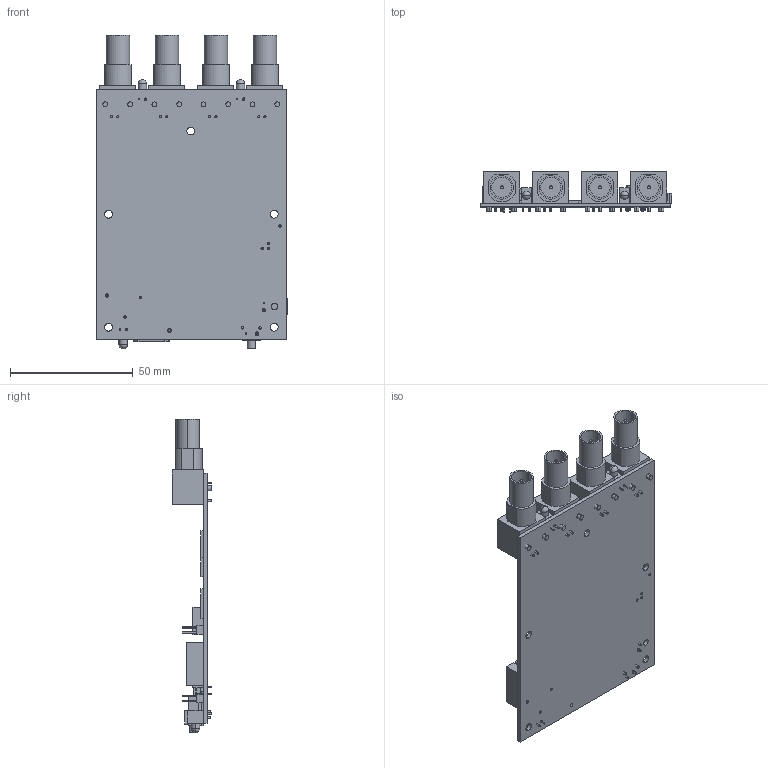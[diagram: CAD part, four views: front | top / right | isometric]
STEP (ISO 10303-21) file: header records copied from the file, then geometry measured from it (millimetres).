
FILE_DESCRIPTION (( 'STEP AP203' ), '1' );
FILE_NAME ('Assy PCB HD-3000 V2 230130.STEP', '2023-01-30T21:15:36', ( '' ), ( '' ), 'SwSTEP 2.0', 'SolidWorks 2022', '' );
FILE_SCHEMA (( 'CONFIG_CONTROL_DESIGN' ));
Length unit declared in the file: inch
Products named in the file (11): 212030102-3 Conn BNC RA 75 Ohm Yin Sheng; 196002412-3 Tact SW; 212200190-3 HDMI; PCB HD-3000 V2 416026010-3 230130; 210061108-3 1.25-F-8P; 120014015-3 LED RA 3.4mm Green; Assy PCB HD-3000 V2 230130; 210082402-3 Power 2P RA; 210010006-3 2.5-F-06p; 210006020-3 Header 20P Horiz; 210021402-3 Header_2.0_2x1
Assembly tree (18 placements, depth 2):
  Assy PCB HD-3000 V2 230130
    PCB HD-3000 V2 416026010-3 230130
    120014015-3 LED RA 3.4mm Green  x3
    196002412-3 Tact SW
    210006020-3 Header 20P Horiz
    210010006-3 2.5-F-06p
    210021402-3 Header_2.0_2x1  x4
    210061108-3 1.25-F-8P
    210082402-3 Power 2P RA
    212200190-3 HDMI
    212030102-3 Conn BNC RA 75 Ohm Yin Sheng  x4
Bounding box: 77.98 x 16.2 x 127.9 mm (x, y, z)
Volume: 31547 mm3; surface area: 29431.5 mm2
Topology: 38 solids, 38 shells, 1051 faces, 2479 edges, 1611 vertices
Faces by surface type: plane 821, cylinder 224, sphere 6
Entity records: 25840 total; most frequent: CARTESIAN_POINT 4250, DIRECTION 4095, ORIENTED_EDGE 4086, EDGE_CURVE 2043, LINE 1727, VECTOR 1727, VERTEX_POINT 1323, AXIS2_PLACEMENT_3D 1184
